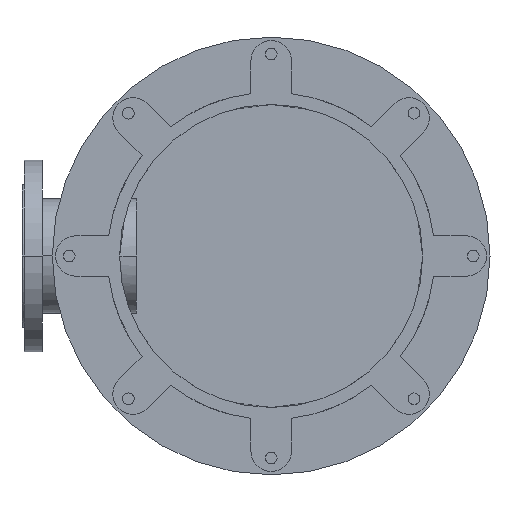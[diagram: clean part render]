
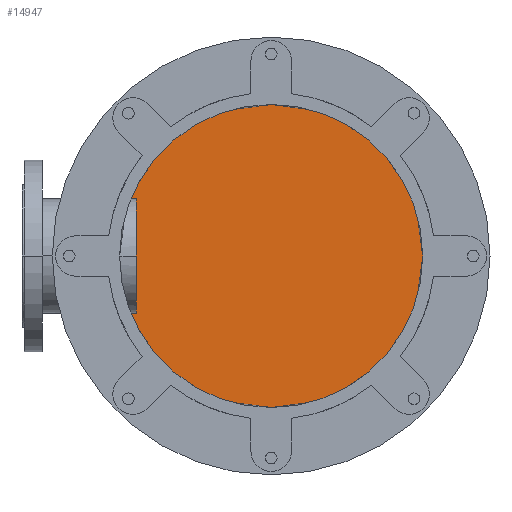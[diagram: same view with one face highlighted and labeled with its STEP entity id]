
A CAD part, front view. The second image highlights one B-rep face of the part: STEP entity #14947.
In plain terms, the highlighted planar face has unit normal (0, -1, 0).
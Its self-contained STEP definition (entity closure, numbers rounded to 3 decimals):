
#3896=CARTESIAN_POINT('',(0.,1172.,0.));
#3897=DIRECTION('',(0.,-1.,0.));
#3898=DIRECTION('',(0.,0.,1.));
#3899=AXIS2_PLACEMENT_3D('',#3896,#3897,#3898);
#4065=CARTESIAN_POINT('',(0.,1172.,0.));
#4066=DIRECTION('',(0.,-1.,0.));
#4067=DIRECTION('',(0.,0.,-1.));
#4068=AXIS2_PLACEMENT_3D('',#4065,#4066,#4067);
#9167=CARTESIAN_POINT('',(0.,1172.,240.));
#9168=CARTESIAN_POINT('',(0.,1172.,-240.));
#9169=VERTEX_POINT('',#9167);
#9170=VERTEX_POINT('',#9168);
#14937=CARTESIAN_POINT('',(0.,1172.,0.));
#14938=DIRECTION('',(0.,1.,0.));
#14939=DIRECTION('',(0.,0.,-1.));
#14940=AXIS2_PLACEMENT_3D('',#14937,#14938,#14939);
#14941=PLANE('',#14940);
#14942=ORIENTED_EDGE('',*,*,#14915,.F.);
#14944=ORIENTED_EDGE('',*,*,#14943,.F.);
#14945=EDGE_LOOP('',(#14942,#14944));
#14946=FACE_OUTER_BOUND('',#14945,.F.);
#14947=ADVANCED_FACE('',(#14946),#14941,.F.);
#3900=CIRCLE('',#3899,240.);
#4069=CIRCLE('',#4068,240.);
#14915=EDGE_CURVE('',#9169,#9170,#3900,.T.);
#14943=EDGE_CURVE('',#9170,#9169,#4069,.T.);
